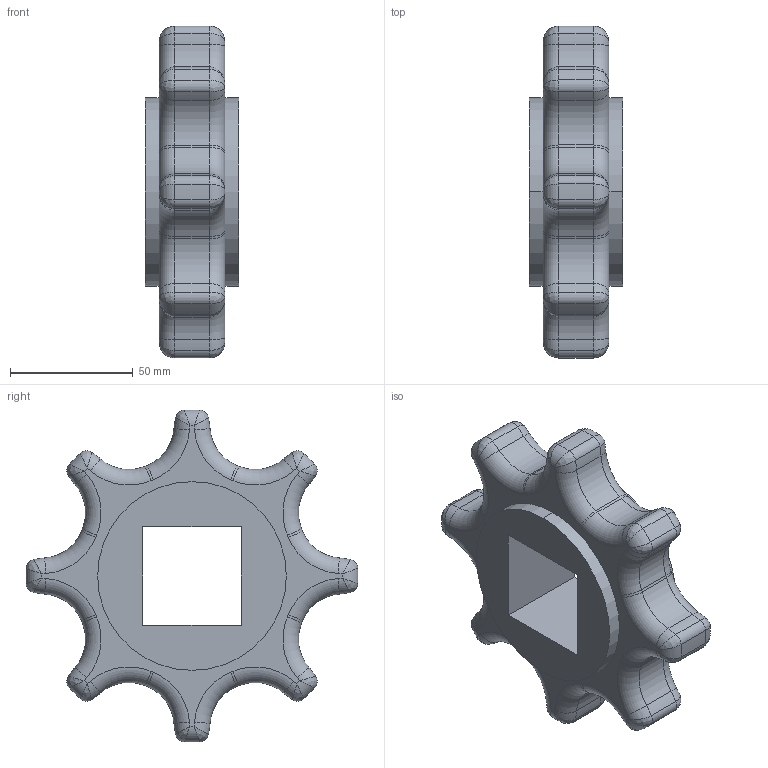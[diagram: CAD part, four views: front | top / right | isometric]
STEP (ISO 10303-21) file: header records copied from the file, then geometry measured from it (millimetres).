
FILE_DESCRIPTION((''),'2;1');
FILE_NAME('S3000_SPROCKET_52X15_40_SQ','2008-12-12T',('jmumphre'),(''),'PRO/ENGINEER BY PARAMETRIC TECHNOLOGY CORPORATION, 2008150','PRO/ENGINEER BY PARAMETRIC TECHNOLOGY CORPORATION, 2008150','');
FILE_SCHEMA(('CONFIG_CONTROL_DESIGN'));
Length unit declared in the file: inch
Products named in the file (1): S3000_SPROCKET_52X15_40_SQ
Bounding box: 38.1 x 135.33 x 135.33 mm (x, y, z)
Volume: 252394.3 mm3; surface area: 36853.9 mm2
Topology: 1 solids, 1 shells, 204 faces, 440 edges, 240 vertices
Faces by surface type: torus 80, cylinder 76, bspline 32, plane 16
Entity records: 7512 total; most frequent: CARTESIAN_POINT 3140, DIRECTION 984, ORIENTED_EDGE 880, EDGE_CURVE 440, AXIS2_PLACEMENT_3D 436, CIRCLE 264, VERTEX_POINT 240, EDGE_LOOP 208
